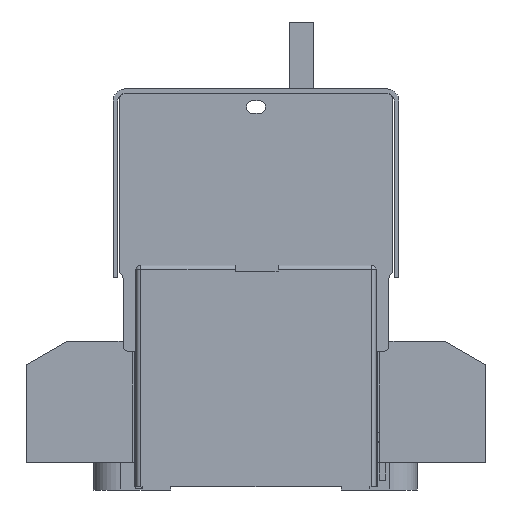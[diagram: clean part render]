
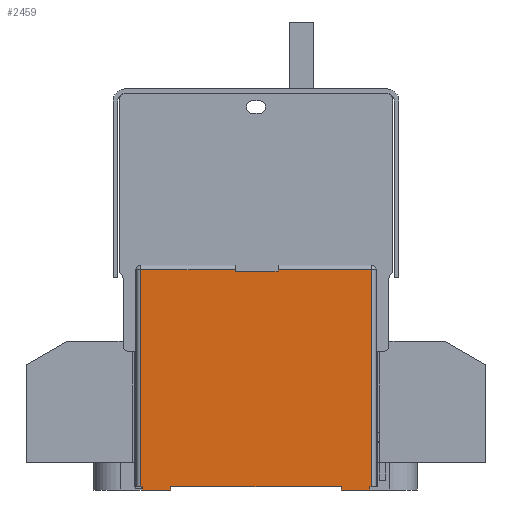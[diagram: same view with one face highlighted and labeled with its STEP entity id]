
A CAD part, left-side view. The second image highlights one B-rep face of the part: STEP entity #2459.
In plain terms, the highlighted planar face has unit normal (-1, 0, 0).
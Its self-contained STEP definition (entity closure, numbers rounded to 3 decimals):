
#928=PLANE('',#27045);
#2459=ADVANCED_FACE('',(#4046),#928,.F.);
#4046=FACE_OUTER_BOUND('',#5492,.T.);
#5492=EDGE_LOOP('',(#17629,#17630,#17631,#17632,#17633,#17634,#17635,#17636,
#17637,#17638,#17639,#17640,#17641,#17642,#17643,#17644));
#7932=LINE('',#40553,#10672);
#7934=LINE('',#40559,#10674);
#8004=LINE('',#40871,#10744);
#8020=LINE('',#40951,#10760);
#8055=LINE('',#41034,#10795);
#8060=LINE('',#41046,#10800);
#8062=LINE('',#41049,#10802);
#8068=LINE('',#41062,#10808);
#8207=LINE('',#41353,#10947);
#8208=LINE('',#41357,#10948);
#8209=LINE('',#41358,#10949);
#8210=LINE('',#41360,#10950);
#8211=LINE('',#41362,#10951);
#8212=LINE('',#41363,#10952);
#8213=LINE('',#41364,#10953);
#8214=LINE('',#41366,#10954);
#10672=VECTOR('',#32867,1.);
#10674=VECTOR('',#32873,1.);
#10744=VECTOR('',#33161,1.);
#10760=VECTOR('',#33273,1.);
#10795=VECTOR('',#33358,1.);
#10800=VECTOR('',#33365,1.);
#10802=VECTOR('',#33369,1.);
#10808=VECTOR('',#33377,1.);
#10947=VECTOR('',#33634,1.);
#10948=VECTOR('',#33639,1.);
#10949=VECTOR('',#33640,1.);
#10950=VECTOR('',#33641,1.);
#10951=VECTOR('',#33642,1.);
#10952=VECTOR('',#33643,1.);
#10953=VECTOR('',#33644,1.);
#10954=VECTOR('',#33645,1.);
#17629=ORIENTED_EDGE('',*,*,#24179,.F.);
#17630=ORIENTED_EDGE('',*,*,#23972,.T.);
#17631=ORIENTED_EDGE('',*,*,#23796,.T.);
#17632=ORIENTED_EDGE('',*,*,#24181,.F.);
#17633=ORIENTED_EDGE('',*,*,#23799,.T.);
#17634=ORIENTED_EDGE('',*,*,#23932,.T.);
#17635=ORIENTED_EDGE('',*,*,#24182,.T.);
#17636=ORIENTED_EDGE('',*,*,#24183,.T.);
#17637=ORIENTED_EDGE('',*,*,#24184,.F.);
#17638=ORIENTED_EDGE('',*,*,#24013,.F.);
#17639=ORIENTED_EDGE('',*,*,#24018,.T.);
#17640=ORIENTED_EDGE('',*,*,#24185,.T.);
#17641=ORIENTED_EDGE('',*,*,#24026,.F.);
#17642=ORIENTED_EDGE('',*,*,#24020,.F.);
#17643=ORIENTED_EDGE('',*,*,#24186,.T.);
#17644=ORIENTED_EDGE('',*,*,#24187,.T.);
#20414=VERTEX_POINT('',#40552);
#20415=VERTEX_POINT('',#40554);
#20417=VERTEX_POINT('',#40560);
#20418=VERTEX_POINT('',#40561);
#20506=VERTEX_POINT('',#40866);
#20507=VERTEX_POINT('',#40870);
#20547=VERTEX_POINT('',#41035);
#20548=VERTEX_POINT('',#41036);
#20552=VERTEX_POINT('',#41045);
#20553=VERTEX_POINT('',#41050);
#20554=VERTEX_POINT('',#41051);
#20557=VERTEX_POINT('',#41059);
#20652=VERTEX_POINT('',#41354);
#20653=VERTEX_POINT('',#41359);
#20654=VERTEX_POINT('',#41361);
#20655=VERTEX_POINT('',#41365);
#23796=EDGE_CURVE('',#20415,#20414,#7932,.T.);
#23799=EDGE_CURVE('',#20417,#20418,#7934,.T.);
#23932=EDGE_CURVE('',#20418,#20507,#8004,.T.);
#23972=EDGE_CURVE('',#20506,#20415,#8020,.T.);
#24013=EDGE_CURVE('',#20547,#20548,#8055,.T.);
#24018=EDGE_CURVE('',#20547,#20552,#8060,.T.);
#24020=EDGE_CURVE('',#20553,#20554,#8062,.T.);
#24026=EDGE_CURVE('',#20554,#20557,#8068,.T.);
#24179=EDGE_CURVE('',#20506,#20652,#8207,.T.);
#24181=EDGE_CURVE('',#20417,#20414,#8208,.T.);
#24182=EDGE_CURVE('',#20507,#20653,#8209,.T.);
#24183=EDGE_CURVE('',#20653,#20654,#8210,.T.);
#24184=EDGE_CURVE('',#20548,#20654,#8211,.T.);
#24185=EDGE_CURVE('',#20552,#20557,#8212,.T.);
#24186=EDGE_CURVE('',#20553,#20655,#8213,.T.);
#24187=EDGE_CURVE('',#20655,#20652,#8214,.T.);
#27045=AXIS2_PLACEMENT_3D('',#41367,#33646,#33647);
#32867=DIRECTION('',(0.,0.,-1.));
#32873=DIRECTION('',(0.,0.,1.));
#33161=DIRECTION('',(0.,1.,0.));
#33273=DIRECTION('',(0.,1.,0.));
#33358=DIRECTION('',(0.,1.,0.));
#33365=DIRECTION('',(0.,0.,1.));
#33369=DIRECTION('',(0.,1.,0.));
#33377=DIRECTION('',(0.,0.,1.));
#33634=DIRECTION('',(0.,0.,-1.));
#33639=DIRECTION('',(0.,-1.,0.));
#33640=DIRECTION('',(0.,0.,-1.));
#33641=DIRECTION('',(0.,-1.,0.));
#33642=DIRECTION('',(0.,0.,1.));
#33643=DIRECTION('',(0.,-1.,0.));
#33644=DIRECTION('',(0.,0.,1.));
#33645=DIRECTION('',(0.,-1.,0.));
#33646=DIRECTION('',(1.,0.,0.));
#33647=DIRECTION('',(0.,0.,-1.));
#40552=CARTESIAN_POINT('',(-69.,-31.985,67.));
#40553=CARTESIAN_POINT('',(-69.,-31.985,69.1));
#40554=CARTESIAN_POINT('',(-69.,-31.985,67.6));
#40559=CARTESIAN_POINT('',(-69.,-17.985,69.1));
#40560=CARTESIAN_POINT('',(-69.,-17.985,67.));
#40561=CARTESIAN_POINT('',(-69.,-17.985,67.6));
#40866=CARTESIAN_POINT('',(-69.,-62.735,67.6));
#40870=CARTESIAN_POINT('',(-69.,13.265,67.6));
#40871=CARTESIAN_POINT('',(-69.,13.265,67.6));
#40951=CARTESIAN_POINT('',(-69.,13.265,67.6));
#41034=CARTESIAN_POINT('',(-69.,3.265,-4.9));
#41035=CARTESIAN_POINT('',(-69.,3.265,-4.9));
#41036=CARTESIAN_POINT('',(-69.,12.765,-4.9));
#41045=CARTESIAN_POINT('',(-69.,3.265,-3.9));
#41046=CARTESIAN_POINT('',(-69.,3.265,-5.9));
#41049=CARTESIAN_POINT('',(-69.,-62.235,-4.9));
#41050=CARTESIAN_POINT('',(-69.,-62.235,-4.9));
#41051=CARTESIAN_POINT('',(-69.,-52.735,-4.9));
#41059=CARTESIAN_POINT('',(-69.,-52.735,-3.9));
#41062=CARTESIAN_POINT('',(-69.,-52.735,-5.9));
#41353=CARTESIAN_POINT('',(-69.,-62.735,69.1));
#41354=CARTESIAN_POINT('',(-69.,-62.735,-3.9));
#41357=CARTESIAN_POINT('',(-69.,12.765,67.));
#41358=CARTESIAN_POINT('',(-69.,13.265,69.1));
#41359=CARTESIAN_POINT('',(-69.,13.265,-3.9));
#41360=CARTESIAN_POINT('',(-69.,-62.235,-3.9));
#41361=CARTESIAN_POINT('',(-69.,12.765,-3.9));
#41362=CARTESIAN_POINT('',(-69.,12.765,-5.9));
#41363=CARTESIAN_POINT('',(-69.,-62.235,-3.9));
#41364=CARTESIAN_POINT('',(-69.,-62.235,-5.9));
#41365=CARTESIAN_POINT('',(-69.,-62.235,-3.9));
#41366=CARTESIAN_POINT('',(-69.,-62.235,-3.9));
#41367=CARTESIAN_POINT('',(-69.,-62.235,69.1));
